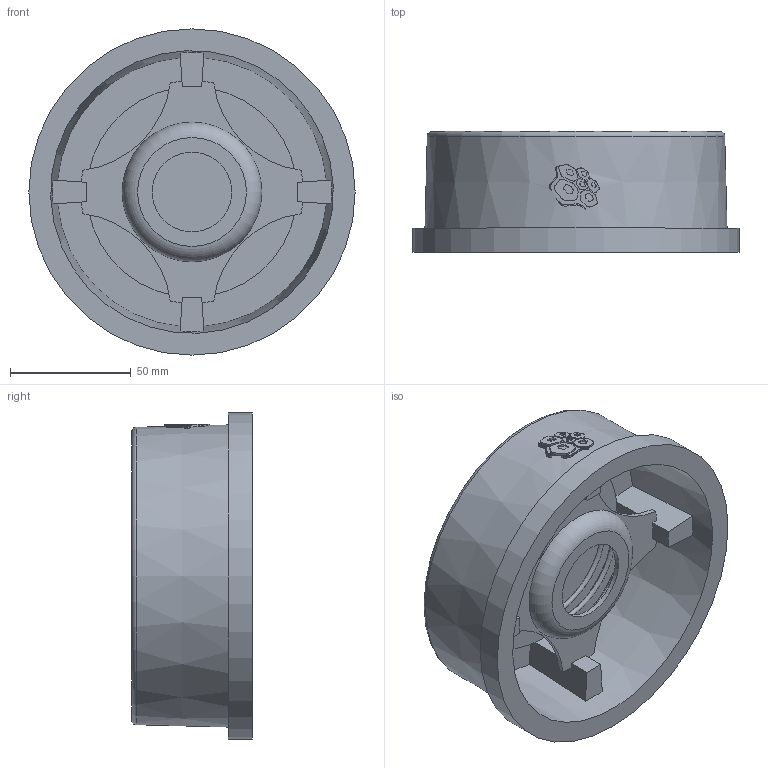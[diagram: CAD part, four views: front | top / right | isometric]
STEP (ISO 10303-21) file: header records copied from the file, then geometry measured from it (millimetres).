
FILE_DESCRIPTION(('STEP AP203'), '1');
FILE_NAME('3D_404-080-40', '', ('UNSPECIFIED'), ('UNSPECIFIED'), 'C3D Converter', 'C3D Toolkit', '');
FILE_SCHEMA(('CONFIG_CONTROL_DESIGN'));
Length unit declared in the file: millimetre
Bounding box: 135 x 50 x 135 mm (x, y, z)
Volume: 190905.3 mm3; surface area: 80544.3 mm2
Topology: 1 solids, 1 shells, 888 faces, 2606 edges, 1734 vertices
Faces by surface type: plane 856, cylinder 20, cone 8, torus 3, bspline 1
Full cylindrical faces by diameter (mm): 33 x1, 53.751 x1, 75 x1, 135 x1
Entity records: 40071 total; most frequent: CARTESIAN_POINT 10894, ORIENTED_EDGE 5190, DIRECTION 3624, EDGE_CURVE 2595, LINE 1738, VECTOR 1738, VERTEX_POINT 1733, AXIS2_PLACEMENT_3D 943
